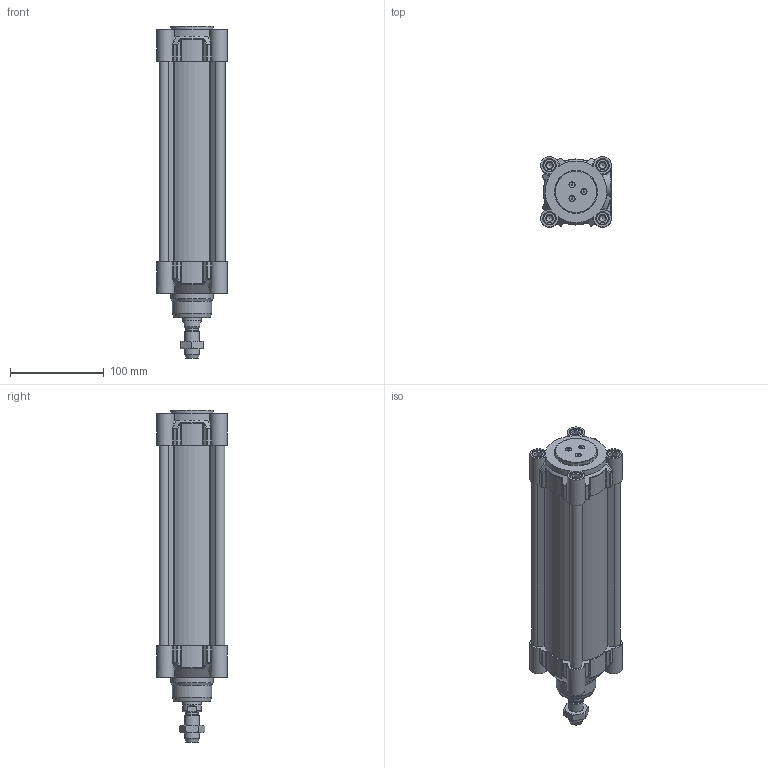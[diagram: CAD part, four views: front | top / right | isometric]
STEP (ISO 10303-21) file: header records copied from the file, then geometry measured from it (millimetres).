
FILE_DESCRIPTION(/* description */ ('Unknown'),/* implementation_level */ '2;1');
FILE_NAME(/* name */ 'HIFO 63_160',/* time_stamp */ '2024-08-14T14:06:13+02:00',/* author */ ('Unknown'),/* organization */ ('Unknown'),/* preprocessor_version */ 'ST-DEVELOPER v16.7',/* originating_system */ 'Solid Edge',/* authorisation */ 'Unknown');
FILE_SCHEMA (('AUTOMOTIVE_DESIGN {1 0 10303 214 3 1 1}'));
Length unit declared in the file: millimetre
Products named in the file (6): HIFO 63_160; Kit_2; Kit_1; Profilrohr 63_160; Kolbenstange 63_160; Mutter
Assembly tree (5 placements, depth 2):
  HIFO 63_160
    Kit_2
    Kit_1
    Profilrohr 63_160
    Kolbenstange 63_160
    Mutter
Bounding box: 75 x 75 x 354 mm (x, y, z)
Volume: 766276.7 mm3; surface area: 261865 mm2
Topology: 5 solids, 17 shells, 1141 faces, 2866 edges, 1828 vertices
Faces by surface type: cylinder 475, plane 368, cone 106, torus 86, bspline 62, sphere 44
Full cylindrical faces by diameter (mm): 3 x4, 3.4 x1, 3.5 x3, 6 x3, 6.647 x16, 8 x8, 8.3 x8, 9.9 x2, 10 x4, 12 x1, 13 x8, 13.3 x8, 13.5 x1, 14.376 x1, 14.94 x1, 14.95 x2, 16 x1, 19.5 x1, 20 x2, 20.5 x1, 20.8 x1, 20.847 x1, 24 x1, 30 x2, 42 x1, 45 x2, 63 x2
Entity records: 44140 total; most frequent: CARTESIAN_POINT 11422, ORIENTED_EDGE 5564, DIRECTION 5001, EDGE_CURVE 2782, AXIS2_PLACEMENT_3D 2008, VERTEX_POINT 1812, FACE_BOUND 1306, EDGE_LOOP 1298
